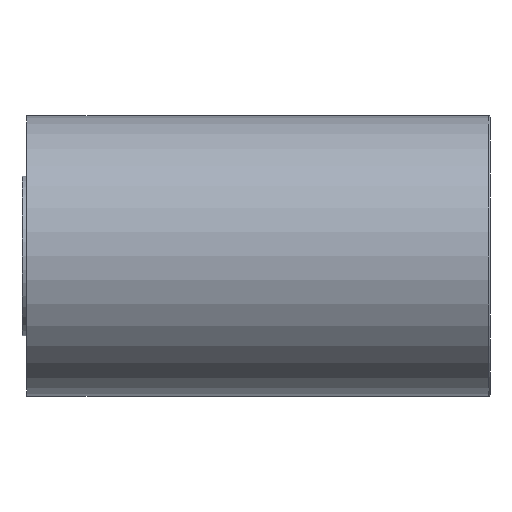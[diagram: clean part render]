
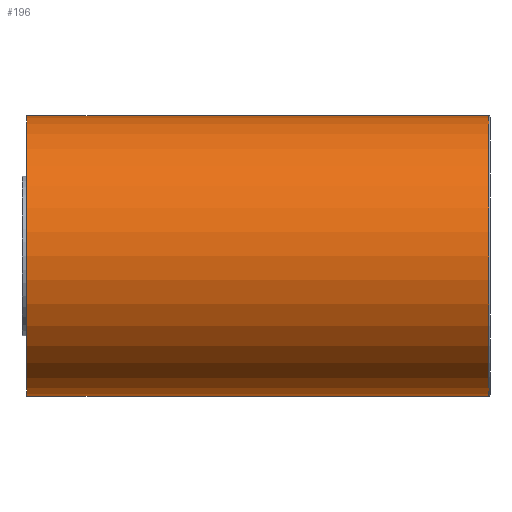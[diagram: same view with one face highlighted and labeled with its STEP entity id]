
A CAD part, front view. The second image highlights one B-rep face of the part: STEP entity #196.
In plain terms, the highlighted cylindrical face has radius 10 mm (diameter 20 mm), a full revolution.
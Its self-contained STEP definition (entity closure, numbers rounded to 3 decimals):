
#196 = ADVANCED_FACE( '', ( #461, #462 ), #463, .T. );
#461 = FACE_OUTER_BOUND( '', #941, .T. );
#462 = FACE_OUTER_BOUND( '', #942, .T. );
#463 = CYLINDRICAL_SURFACE( '', #943, 10. );
#941 = EDGE_LOOP( '', ( #1690 ) );
#942 = EDGE_LOOP( '', ( #1691 ) );
#943 = AXIS2_PLACEMENT_3D( '', #1692, #1693, #1694 );
#1690 = ORIENTED_EDGE( '', *, *, #3208, .T. );
#1691 = ORIENTED_EDGE( '', *, *, #3302, .F. );
#1692 = CARTESIAN_POINT( '', ( 29.2, 0., 0. ) );
#1693 = DIRECTION( '', ( -1., 0., 0. ) );
#1694 = DIRECTION( '', ( 0., 0., -1. ) );
#3208 = EDGE_CURVE( '', #3859, #3859, #3860, .T. );
#3302 = EDGE_CURVE( '', #4027, #4027, #4028, .T. );
#3859 = VERTEX_POINT( '', #4834 );
#3860 = CIRCLE( '', #4835, 10. );
#4027 = VERTEX_POINT( '', #5079 );
#4028 = CIRCLE( '', #5080, 10. );
#4834 = CARTESIAN_POINT( '', ( -3.8, 0., -10. ) );
#4835 = AXIS2_PLACEMENT_3D( '', #6068, #6069, #6070 );
#5079 = CARTESIAN_POINT( '', ( 29.1, 0., -10. ) );
#5080 = AXIS2_PLACEMENT_3D( '', #6196, #6197, #6198 );
#6068 = CARTESIAN_POINT( '', ( -3.8, 0., 0. ) );
#6069 = DIRECTION( '', ( 1., 0., 0. ) );
#6070 = DIRECTION( '', ( 0., 0., -1. ) );
#6196 = CARTESIAN_POINT( '', ( 29.1, 0., 0. ) );
#6197 = DIRECTION( '', ( 1., 0., 0. ) );
#6198 = DIRECTION( '', ( 0., 0., -1. ) );
